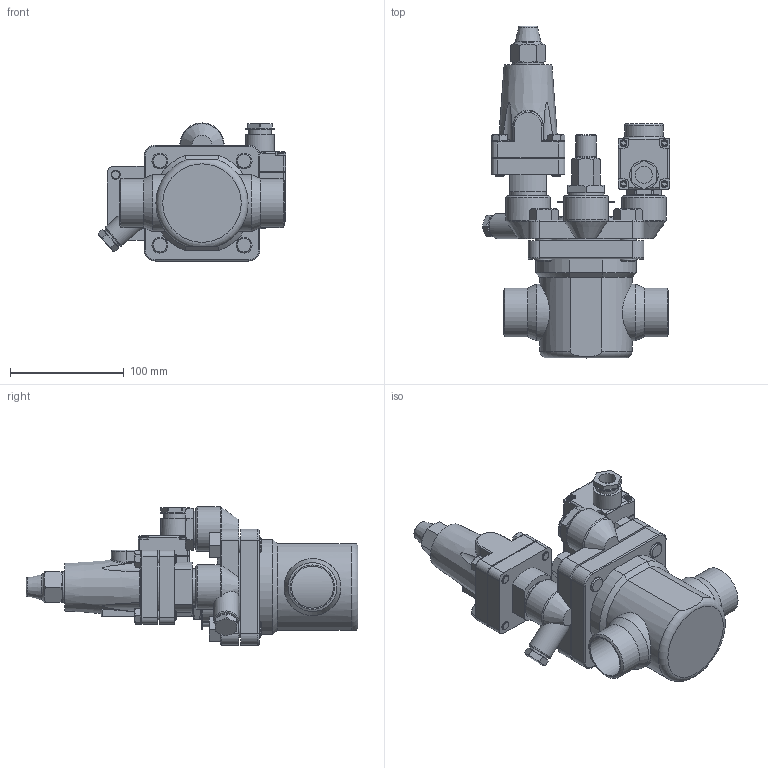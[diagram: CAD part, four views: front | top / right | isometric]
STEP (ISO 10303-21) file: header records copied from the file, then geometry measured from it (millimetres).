
FILE_DESCRIPTION(('STEP AP203'), '1');
FILE_NAME('ICS-32-3', '2013-11-04T17:13:17', ('Mihail'), ('123'), 'ASCON STEP Converter 1.3', 'ASCON Math Kernel', '');
FILE_SCHEMA(('CONFIG_CONTROL_DESIGN'));
Length unit declared in the file: millimetre
Products named in the file (8): 1; 2; 3; 4; 5; 6; 7; 8
Assembly tree (10 placements, depth 2):
  1
    2
    3
    4  x4
    5
    6
    7
    8
Bounding box: 164.6 x 292 x 121.5 mm (x, y, z)
Volume: 1201496.7 mm3; surface area: 243916.5 mm2
Topology: 12 solids, 15 shells, 685 faces, 1595 edges, 992 vertices
Faces by surface type: plane 329, cylinder 188, cone 104, torus 57, sphere 4, bspline 3
Full cylindrical faces by diameter (mm): 6 x4, 8 x8, 10 x3, 12.4 x4, 14 x12, 15 x6, 15.2 x1, 18 x2, 20 x1, 22 x2, 24 x6, 25 x2, 26 x1, 26.4 x1, 27 x1, 31.6 x1, 32 x4, 32.2 x3, 34 x1, 37 x3, 39 x3, 43 x2, 45 x2, 50 x3, 65.189 x1, 71 x1, 79 x1, 80 x1
Entity records: 28098 total; most frequent: CARTESIAN_POINT 10659, DIRECTION 3080, ORIENTED_EDGE 2972, EDGE_CURVE 1486, AXIS2_PLACEMENT_3D 1186, VERTEX_POINT 929, EDGE_LOOP 717, LINE 708
